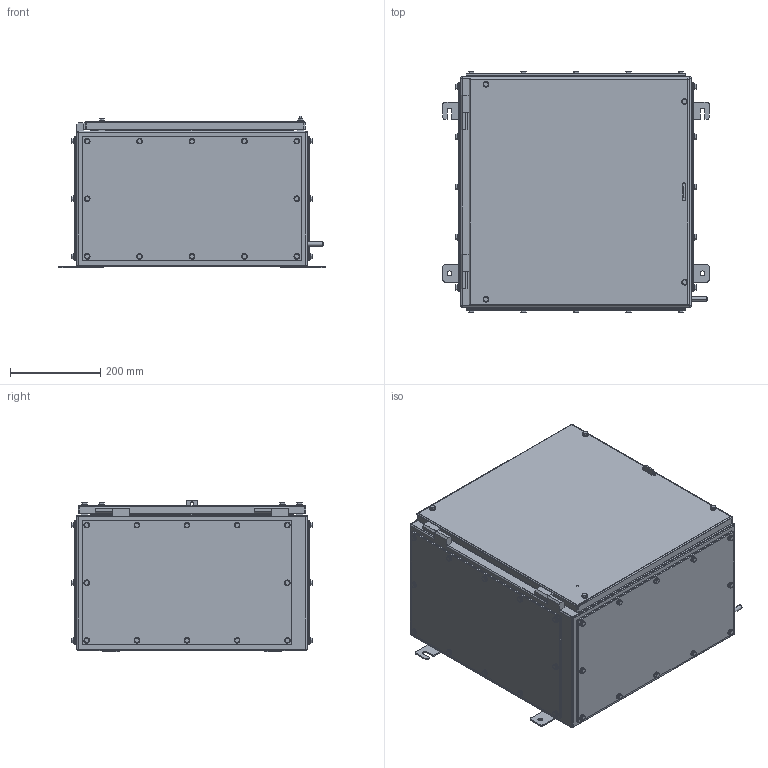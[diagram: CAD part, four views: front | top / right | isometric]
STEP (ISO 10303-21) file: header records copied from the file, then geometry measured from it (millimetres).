
FILE_DESCRIPTION (( 'STEP AP203' ), '1' );
FILE_NAME ('SX5_300_4GP.STEP', '2021-05-20T14:47:45', ( '' ), ( '' ), 'SwSTEP 2.0', 'SolidWorks 2020', '' );
FILE_SCHEMA (( 'CONFIG_CONTROL_DESIGN' ));
Length unit declared in the file: millimetre
Products named in the file (10): SX5-300 side Gland plate; SX5-300 side Gasket; hex screw gradec_bsi_BS EN 24018 - M6 x 20-WN; SX5_300_4GP Body; SX5 Door; hex screw gradec_bsi_BS EN 24018 - M6 x 16-WN; SX5-300 Base Gasket; SX5_300_4GP; plain washer form a_bsi_Bright washer BS 4320 - M6 (Form A); SX5-300 Base Gland plate
Assembly tree (114 placements, depth 2):
  SX5_300_4GP
    SX5 Door
    hex screw gradec_bsi_BS EN 24018 - M6 x 16-WN  x48
    hex screw gradec_bsi_BS EN 24018 - M6 x 20-WN  x4
    plain washer form a_bsi_Bright washer BS 4320 - M6 (Form A)  x52
    SX5_300_4GP Body
    SX5-300 Base Gland plate  x2
    SX5-300 Base Gasket  x2
    SX5-300 side Gasket  x2
    SX5-300 side Gland plate  x2
Bounding box: 590 x 533.95 x 336 mm (x, y, z)
Volume: 3715258.5 mm3; surface area: 3073049.5 mm2
Topology: 114 solids, 114 shells, 2654 faces, 5778 edges, 3496 vertices
Faces by surface type: plane 1202, cylinder 980, cone 424, sphere 40, torus 8
Entity records: 29118 total; most frequent: DIRECTION 4884, CARTESIAN_POINT 4295, ORIENTED_EDGE 3908, AXIS2_PLACEMENT_3D 1973, EDGE_CURVE 1954, VERTEX_POINT 1240, EDGE_LOOP 1122, CIRCLE 992
